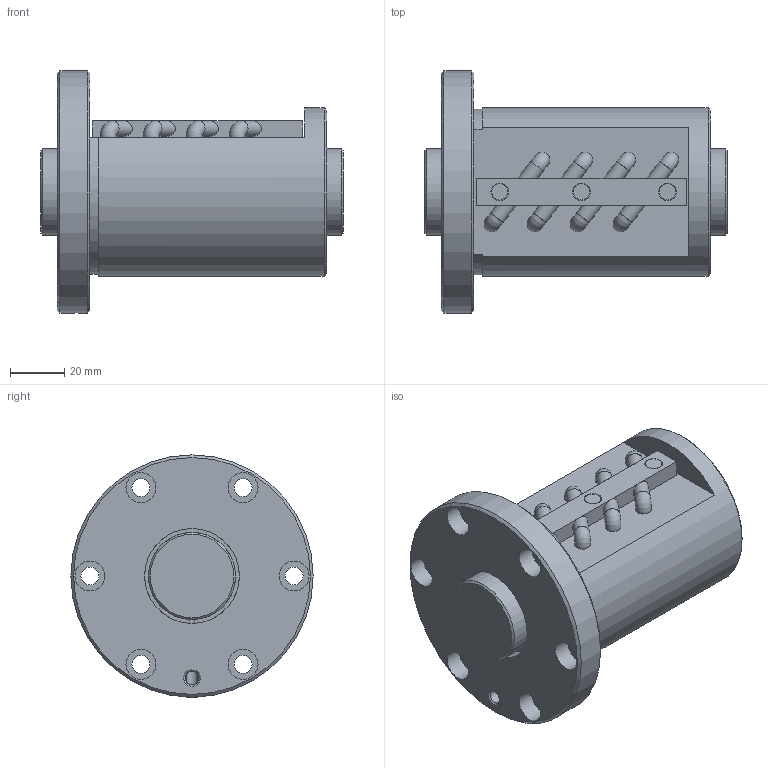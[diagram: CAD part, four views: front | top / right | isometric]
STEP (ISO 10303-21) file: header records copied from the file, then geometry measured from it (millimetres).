
FILE_DESCRIPTION(/* description */ ('STEP AP203'),/* implementation_level */ '2;1');
FILE_NAME(/* name */ 'BIF3206V-10RRG0+111LC0_000',/* time_stamp */ '2024-07-15T08:18:37+02:00',/* author */ ('License CC BY-ND 4.0'),/* organization */ ('CADENAS'),/* preprocessor_version */ 'ST-DEVELOPER v19.3',/* originating_system */ 'PARTsolutions',/* authorisation */ ' ');
FILE_SCHEMA (('CONFIG_CONTROL_DESIGN'));
Length unit declared in the file: millimetre
Products named in the file (3): BIF3206V-10RRG0+111LC0_000; BIF3206V-10RR000 Shaft; BIF3206V-10RR Nut
Assembly tree (2 placements, depth 2):
  BIF3206V-10RRG0+111LC0_000
    BIF3206V-10RR000 Shaft
    BIF3206V-10RR Nut
Bounding box: 111 x 89 x 89 mm (x, y, z)
Volume: 317851.8 mm3; surface area: 58331.8 mm2
Topology: 2 solids, 2 shells, 113 faces, 262 edges, 167 vertices
Faces by surface type: plane 53, cylinder 44, cone 8, torus 8
Full cylindrical faces by diameter (mm): 4.25 x2, 4.917 x1, 5.8 x8, 6 x3, 6.5 x3, 6.6 x6, 11 x6, 32 x2, 34.8 x2, 62 x1, 89 x1
Entity records: 3135 total; most frequent: CARTESIAN_POINT 601, DIRECTION 562, ORIENTED_EDGE 406, AXIS2_PLACEMENT_3D 258, EDGE_CURVE 203, EDGE_LOOP 202, FACE_BOUND 202, VERTEX_POINT 151
